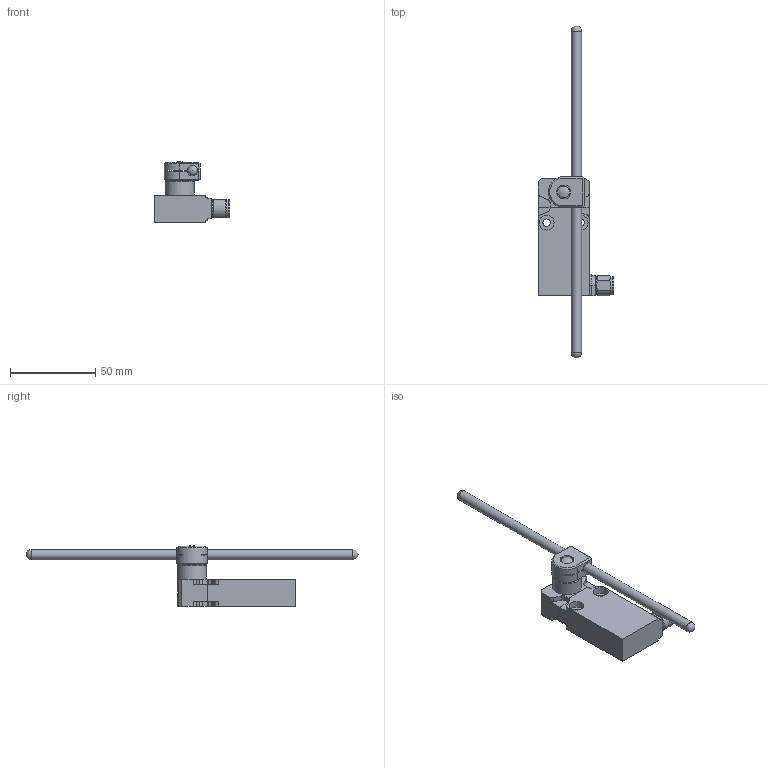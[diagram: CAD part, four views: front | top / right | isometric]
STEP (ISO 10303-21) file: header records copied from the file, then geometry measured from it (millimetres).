
FILE_DESCRIPTION(/* description */ (''),/* implementation_level */ '2;1');
FILE_NAME(/* name */ 'C:\Users\servizio.tecnico\Desktop\CADENAS\3D\EP1_STP\STP_EP1_G73M.stp',/* time_stamp */ '2017-09-04T11:54:15+02:00',/* author */ ('servizio.tecnico'),/* organization */ (''),/* preprocessor_version */ 'ST-DEVELOPER v16.1',/* originating_system */ 'Autodesk Inventor 2016',/* authorisation */ '');
FILE_SCHEMA (('AUTOMOTIVE_DESIGN { 1 0 10303 214 3 1 1 }'));
Length unit declared in the file: millimetre
Products named in the file (3): Product; EP1G73-M; BASE ASSI 
Assembly tree (2 placements, depth 3):
  BASE ASSI 
    EP1G73-M
      Product
Bounding box: 44.5 x 195 x 35.58 mm (x, y, z)
Volume: 42350.5 mm3; surface area: 15856.6 mm2
Topology: 4 solids, 4 shells, 142 faces, 358 edges, 232 vertices
Faces by surface type: plane 88, cylinder 43, cone 6, sphere 3, torus 2
Full cylindrical faces by diameter (mm): 4.4 x2, 6 x1, 7 x1, 8.2 x1, 8.7 x4, 10.3 x1, 10.6 x2, 11 x1, 17 x1
Entity records: 4240 total; most frequent: CARTESIAN_POINT 724, DIRECTION 718, ORIENTED_EDGE 670, EDGE_CURVE 335, AXIS2_PLACEMENT_3D 244, LINE 230, VECTOR 230, VERTEX_POINT 226
